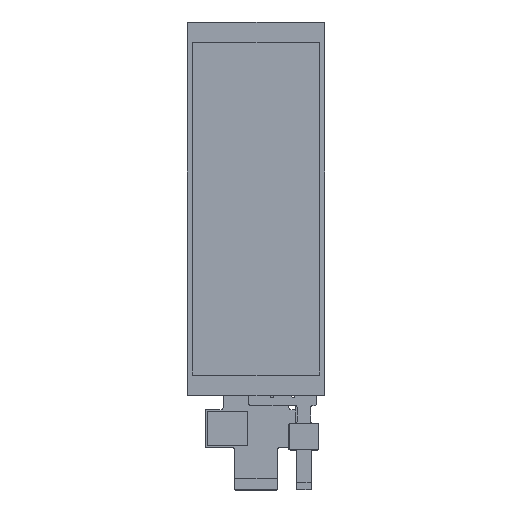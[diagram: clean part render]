
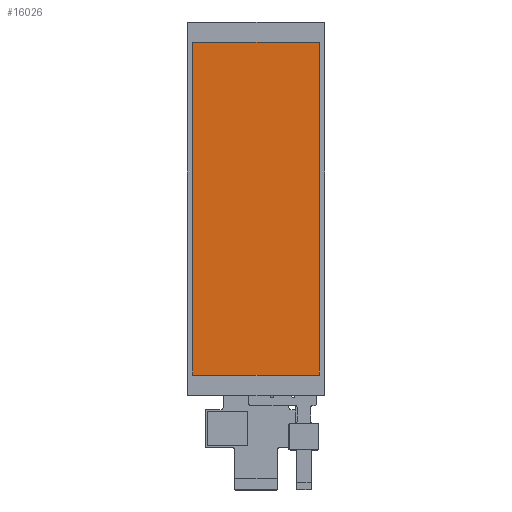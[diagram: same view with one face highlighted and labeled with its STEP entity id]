
A CAD part, top view. The second image highlights one B-rep face of the part: STEP entity #16026.
In plain terms, the highlighted planar face has unit normal (0, 0, 1).
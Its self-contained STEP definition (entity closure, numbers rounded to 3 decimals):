
#430 = CARTESIAN_POINT ( 'NONE',  ( 63.646, 9.444, 2.05 ) ) ;
#837 = CARTESIAN_POINT ( 'NONE',  ( -460.578, -348.939, 2.05 ) ) ;
#1304 = EDGE_CURVE ( 'NONE', #10370, #14568, #2475, .T. ) ;
#1706 = VECTOR ( 'NONE', #3030, 1000. ) ;
#1771 = FACE_OUTER_BOUND ( 'NONE', #11987, .T. ) ;
#2071 = EDGE_CURVE ( 'NONE', #5079, #8469, #3513, .T. ) ;
#2475 = LINE ( 'NONE', #12545, #2860 ) ;
#2860 = VECTOR ( 'NONE', #8672, 1000. ) ;
#2939 = CARTESIAN_POINT ( 'NONE',  ( 2.454, 170.956, 2.05 ) ) ;
#2962 = EDGE_CURVE ( 'NONE', #14568, #5079, #13860, .T. ) ;
#3030 = DIRECTION ( 'NONE',  ( 0., 1., 0. ) ) ;
#3297 = ORIENTED_EDGE ( 'NONE', *, *, #2962, .T. ) ;
#3513 = LINE ( 'NONE', #10059, #7308 ) ;
#5079 = VERTEX_POINT ( 'NONE', #7061 ) ;
#5165 = VECTOR ( 'NONE', #10082, 1000. ) ;
#5777 = PLANE ( 'NONE',  #14373 ) ;
#6637 = ORIENTED_EDGE ( 'NONE', *, *, #1304, .T. ) ;
#7061 = CARTESIAN_POINT ( 'NONE',  ( 2.454, 9.444, 2.05 ) ) ;
#7308 = VECTOR ( 'NONE', #11483, 1000. ) ;
#8469 = VERTEX_POINT ( 'NONE', #9972 ) ;
#8672 = DIRECTION ( 'NONE',  ( -1., 0., 0. ) ) ;
#9972 = CARTESIAN_POINT ( 'NONE',  ( 63.646, 9.444, 2.05 ) ) ;
#10059 = CARTESIAN_POINT ( 'NONE',  ( 2.454, 9.444, 2.05 ) ) ;
#10082 = DIRECTION ( 'NONE',  ( 0., -1., 0. ) ) ;
#10370 = VERTEX_POINT ( 'NONE', #13562 ) ;
#11059 = DIRECTION ( 'NONE',  ( 0., 0., 1. ) ) ;
#11483 = DIRECTION ( 'NONE',  ( 1., 0., 0. ) ) ;
#11987 = EDGE_LOOP ( 'NONE', ( #3297, #13074, #13853, #6637 ) ) ;
#12492 = EDGE_CURVE ( 'NONE', #8469, #10370, #14518, .T. ) ;
#12545 = CARTESIAN_POINT ( 'NONE',  ( 63.646, 170.956, 2.05 ) ) ;
#13074 = ORIENTED_EDGE ( 'NONE', *, *, #2071, .T. ) ;
#13562 = CARTESIAN_POINT ( 'NONE',  ( 63.646, 170.956, 2.05 ) ) ;
#13853 = ORIENTED_EDGE ( 'NONE', *, *, #12492, .T. ) ;
#13860 = LINE ( 'NONE', #14118, #5165 ) ;
#14118 = CARTESIAN_POINT ( 'NONE',  ( 2.454, 170.956, 2.05 ) ) ;
#14373 = AXIS2_PLACEMENT_3D ( 'NONE', #837, #11059, #14602 ) ;
#14518 = LINE ( 'NONE', #430, #1706 ) ;
#14568 = VERTEX_POINT ( 'NONE', #2939 ) ;
#14602 = DIRECTION ( 'NONE',  ( 1., 0., 0. ) ) ;
#16026 = ADVANCED_FACE ( 'NONE', ( #1771 ), #5777, .T. ) ;
